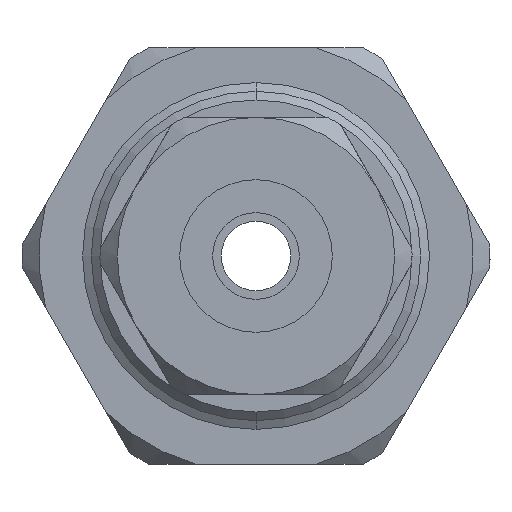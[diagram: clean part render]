
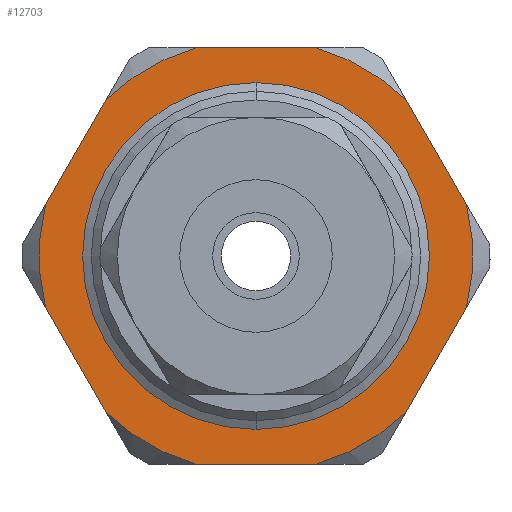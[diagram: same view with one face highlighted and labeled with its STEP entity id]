
A CAD part, front view. The second image highlights one B-rep face of the part: STEP entity #12703.
In plain terms, the highlighted planar face has unit normal (0, -1, 0).
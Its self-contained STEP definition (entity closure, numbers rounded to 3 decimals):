
#129 = DIRECTION ( 'NONE',  ( -0.866, 0., 0.5 ) ) ;
#159 = VERTEX_POINT ( 'NONE', #2383 ) ;
#224 = DIRECTION ( 'NONE',  ( 0., -1., 0. ) ) ;
#255 = EDGE_CURVE ( 'NONE', #943, #465, #16419, .T. ) ;
#290 = CARTESIAN_POINT ( 'NONE',  ( -3.168, -10.626, 61. ) ) ;
#465 = VERTEX_POINT ( 'NONE', #4705 ) ;
#545 = CARTESIAN_POINT ( 'NONE',  ( -21.495, -10.626, 46.031 ) ) ;
#943 = VERTEX_POINT ( 'NONE', #10661 ) ;
#1011 = CARTESIAN_POINT ( 'NONE',  ( -17.995, -10.626, 39.969 ) ) ;
#1265 = ORIENTED_EDGE ( 'NONE', *, *, #12744, .F. ) ;
#1277 = CIRCLE ( 'NONE', #5525, 12.5 ) ;
#1456 = VECTOR ( 'NONE', #12259, 1000. ) ;
#1704 = DIRECTION ( 'NONE',  ( -0.866, 0., 0.5 ) ) ;
#1792 = ORIENTED_EDGE ( 'NONE', *, *, #19081, .F. ) ;
#2111 = CARTESIAN_POINT ( 'NONE',  ( 1.04, -10.626, 43. ) ) ;
#2343 = VERTEX_POINT ( 'NONE', #1011 ) ;
#2383 = CARTESIAN_POINT ( 'NONE',  ( -12.853, -10.626, 61. ) ) ;
#2451 = ORIENTED_EDGE ( 'NONE', *, *, #15742, .F. ) ;
#2654 = CARTESIAN_POINT ( 'NONE',  ( -5.853, -10.626, 61. ) ) ;
#2863 = VERTEX_POINT ( 'NONE', #14541 ) ;
#3336 = LINE ( 'NONE', #4190, #7315 ) ;
#3439 = VECTOR ( 'NONE', #21308, 1000. ) ;
#3611 = ORIENTED_EDGE ( 'NONE', *, *, #8260, .F. ) ;
#3638 = AXIS2_PLACEMENT_3D ( 'NONE', #20594, #224, #12160 ) ;
#4050 = LINE ( 'NONE', #14405, #8570 ) ;
#4190 = CARTESIAN_POINT ( 'NONE',  ( 4.132, -10.626, 49.644 ) ) ;
#4449 = DIRECTION ( 'NONE',  ( 0., 1., 0. ) ) ;
#4705 = CARTESIAN_POINT ( 'NONE',  ( -1.342, -10.626, 44.375 ) ) ;
#4759 = AXIS2_PLACEMENT_3D ( 'NONE', #5851, #17785, #7850 ) ;
#5360 = CIRCLE ( 'NONE', #6346, 12.5 ) ;
#5422 = DIRECTION ( 'NONE',  ( 0., 1., 0. ) ) ;
#5525 = AXIS2_PLACEMENT_3D ( 'NONE', #15643, #5422, #17359 ) ;
#5571 = CARTESIAN_POINT ( 'NONE',  ( -0.71, -10.626, 58.031 ) ) ;
#5851 = CARTESIAN_POINT ( 'NONE',  ( -9.353, -10.626, 49. ) ) ;
#5981 = FACE_OUTER_BOUND ( 'NONE', #20353, .T. ) ;
#5986 = LINE ( 'NONE', #13901, #1456 ) ;
#6010 = AXIS2_PLACEMENT_3D ( 'NONE', #20495, #10376, #129 ) ;
#6346 = AXIS2_PLACEMENT_3D ( 'NONE', #9752, #21614, #11460 ) ;
#7315 = VECTOR ( 'NONE', #21224, 1000. ) ;
#7410 = VERTEX_POINT ( 'NONE', #12840 ) ;
#7416 = ORIENTED_EDGE ( 'NONE', *, *, #9477, .F. ) ;
#7435 = LINE ( 'NONE', #2111, #15995 ) ;
#7826 = EDGE_CURVE ( 'NONE', #15093, #21906, #7435, .T. ) ;
#7850 = DIRECTION ( 'NONE',  ( -0.866, 0., 0.5 ) ) ;
#8260 = EDGE_CURVE ( 'NONE', #9679, #159, #1277, .T. ) ;
#8546 = CARTESIAN_POINT ( 'NONE',  ( -9.353, -10.626, 49. ) ) ;
#8570 = VECTOR ( 'NONE', #14471, 1000. ) ;
#8868 = CIRCLE ( 'NONE', #17702, 12.5 ) ;
#8951 = ORIENTED_EDGE ( 'NONE', *, *, #7826, .F. ) ;
#8991 = ORIENTED_EDGE ( 'NONE', *, *, #15838, .F. ) ;
#9049 = CARTESIAN_POINT ( 'NONE',  ( -9.353, -10.626, 49. ) ) ;
#9411 = CARTESIAN_POINT ( 'NONE',  ( -15.537, -10.626, 37. ) ) ;
#9477 = EDGE_CURVE ( 'NONE', #14516, #10560, #3336, .T. ) ;
#9516 = CIRCLE ( 'NONE', #4759, 9.25 ) ;
#9679 = VERTEX_POINT ( 'NONE', #9996 ) ;
#9752 = CARTESIAN_POINT ( 'NONE',  ( -9.353, -10.626, 49. ) ) ;
#9944 = CIRCLE ( 'NONE', #10426, 12.5 ) ;
#9996 = CARTESIAN_POINT ( 'NONE',  ( -17.995, -10.626, 58.031 ) ) ;
#9999 = FACE_BOUND ( 'NONE', #22000, .T. ) ;
#10293 = DIRECTION ( 'NONE',  ( -0.866, 0., 0.5 ) ) ;
#10376 = DIRECTION ( 'NONE',  ( 0., 1., 0. ) ) ;
#10426 = AXIS2_PLACEMENT_3D ( 'NONE', #9049, #20920, #10760 ) ;
#10560 = VERTEX_POINT ( 'NONE', #19436 ) ;
#10661 = CARTESIAN_POINT ( 'NONE',  ( -17.364, -10.626, 53.625 ) ) ;
#10760 = DIRECTION ( 'NONE',  ( -0.866, 0., 0.5 ) ) ;
#11158 = CIRCLE ( 'NONE', #6010, 12.5 ) ;
#11178 = VERTEX_POINT ( 'NONE', #2654 ) ;
#11460 = DIRECTION ( 'NONE',  ( -0.866, 0., 0.5 ) ) ;
#11658 = ORIENTED_EDGE ( 'NONE', *, *, #18158, .F. ) ;
#11917 = DIRECTION ( 'NONE',  ( 0., 1., 0. ) ) ;
#12108 = CARTESIAN_POINT ( 'NONE',  ( -12.853, -10.626, 37. ) ) ;
#12160 = DIRECTION ( 'NONE',  ( -0.866, 0., 0.5 ) ) ;
#12259 = DIRECTION ( 'NONE',  ( -0.5, 0., 0.866 ) ) ;
#12703 = ADVANCED_FACE ( 'NONE', ( #9999, #5981 ), #15134, .F. ) ;
#12744 = EDGE_CURVE ( 'NONE', #20906, #7410, #17450, .T. ) ;
#12840 = CARTESIAN_POINT ( 'NONE',  ( -21.495, -10.626, 51.969 ) ) ;
#13036 = EDGE_CURVE ( 'NONE', #17973, #2343, #8868, .T. ) ;
#13549 = LINE ( 'NONE', #290, #22034 ) ;
#13901 = CARTESIAN_POINT ( 'NONE',  ( -22.837, -10.626, 48.356 ) ) ;
#13943 = DIRECTION ( 'NONE',  ( 1., 0., 0. ) ) ;
#13995 = ORIENTED_EDGE ( 'NONE', *, *, #20855, .F. ) ;
#14031 = DIRECTION ( 'NONE',  ( -0.5, 0., -0.866 ) ) ;
#14405 = CARTESIAN_POINT ( 'NONE',  ( -19.745, -10.626, 55. ) ) ;
#14471 = DIRECTION ( 'NONE',  ( 0.5, 0., 0.866 ) ) ;
#14516 = VERTEX_POINT ( 'NONE', #5571 ) ;
#14541 = CARTESIAN_POINT ( 'NONE',  ( -5.853, -10.626, 37. ) ) ;
#14667 = CARTESIAN_POINT ( 'NONE',  ( -9.353, -10.626, 49. ) ) ;
#14871 = ORIENTED_EDGE ( 'NONE', *, *, #13036, .F. ) ;
#15093 = VERTEX_POINT ( 'NONE', #20520 ) ;
#15134 = PLANE ( 'NONE',  #21245 ) ;
#15643 = CARTESIAN_POINT ( 'NONE',  ( -9.353, -10.626, 49. ) ) ;
#15742 = EDGE_CURVE ( 'NONE', #10560, #15093, #9944, .T. ) ;
#15838 = EDGE_CURVE ( 'NONE', #7410, #9679, #4050, .T. ) ;
#15995 = VECTOR ( 'NONE', #14031, 1000. ) ;
#16364 = DIRECTION ( 'NONE',  ( -0.866, 0., 0.5 ) ) ;
#16419 = CIRCLE ( 'NONE', #3638, 9.25 ) ;
#16927 = ORIENTED_EDGE ( 'NONE', *, *, #17776, .F. ) ;
#17203 = ORIENTED_EDGE ( 'NONE', *, *, #18600, .F. ) ;
#17359 = DIRECTION ( 'NONE',  ( -0.866, 0., 0.5 ) ) ;
#17450 = CIRCLE ( 'NONE', #20061, 12.5 ) ;
#17702 = AXIS2_PLACEMENT_3D ( 'NONE', #14667, #4449, #16364 ) ;
#17776 = EDGE_CURVE ( 'NONE', #11178, #14516, #5360, .T. ) ;
#17785 = DIRECTION ( 'NONE',  ( 0., -1., 0. ) ) ;
#17973 = VERTEX_POINT ( 'NONE', #12108 ) ;
#18158 = EDGE_CURVE ( 'NONE', #2863, #17973, #21551, .T. ) ;
#18600 = EDGE_CURVE ( 'NONE', #159, #11178, #13549, .T. ) ;
#19081 = EDGE_CURVE ( 'NONE', #21906, #2863, #11158, .T. ) ;
#19436 = CARTESIAN_POINT ( 'NONE',  ( 2.79, -10.626, 51.969 ) ) ;
#20061 = AXIS2_PLACEMENT_3D ( 'NONE', #8546, #20434, #10293 ) ;
#20245 = CARTESIAN_POINT ( 'NONE',  ( -0.71, -10.626, 39.969 ) ) ;
#20311 = ORIENTED_EDGE ( 'NONE', *, *, #255, .F. ) ;
#20353 = EDGE_LOOP ( 'NONE', ( #3611, #8991, #1265, #13995, #14871, #11658, #1792, #8951, #2451, #7416, #16927, #17203 ) ) ;
#20434 = DIRECTION ( 'NONE',  ( 0., 1., 0. ) ) ;
#20487 = EDGE_CURVE ( 'NONE', #465, #943, #9516, .T. ) ;
#20495 = CARTESIAN_POINT ( 'NONE',  ( -9.353, -10.626, 49. ) ) ;
#20520 = CARTESIAN_POINT ( 'NONE',  ( 2.79, -10.626, 46.031 ) ) ;
#20594 = CARTESIAN_POINT ( 'NONE',  ( -9.353, -10.626, 49. ) ) ;
#20855 = EDGE_CURVE ( 'NONE', #2343, #20906, #5986, .T. ) ;
#20906 = VERTEX_POINT ( 'NONE', #545 ) ;
#20920 = DIRECTION ( 'NONE',  ( 0., 1., 0. ) ) ;
#21224 = DIRECTION ( 'NONE',  ( 0.5, 0., -0.866 ) ) ;
#21245 = AXIS2_PLACEMENT_3D ( 'NONE', #22083, #11917, #1704 ) ;
#21308 = DIRECTION ( 'NONE',  ( -1., 0., 0. ) ) ;
#21551 = LINE ( 'NONE', #9411, #3439 ) ;
#21614 = DIRECTION ( 'NONE',  ( 0., 1., 0. ) ) ;
#21674 = ORIENTED_EDGE ( 'NONE', *, *, #20487, .F. ) ;
#21906 = VERTEX_POINT ( 'NONE', #20245 ) ;
#22000 = EDGE_LOOP ( 'NONE', ( #20311, #21674 ) ) ;
#22034 = VECTOR ( 'NONE', #13943, 1000. ) ;
#22083 = CARTESIAN_POINT ( 'NONE',  ( -5.285, -10.626, 32.045 ) ) ;
